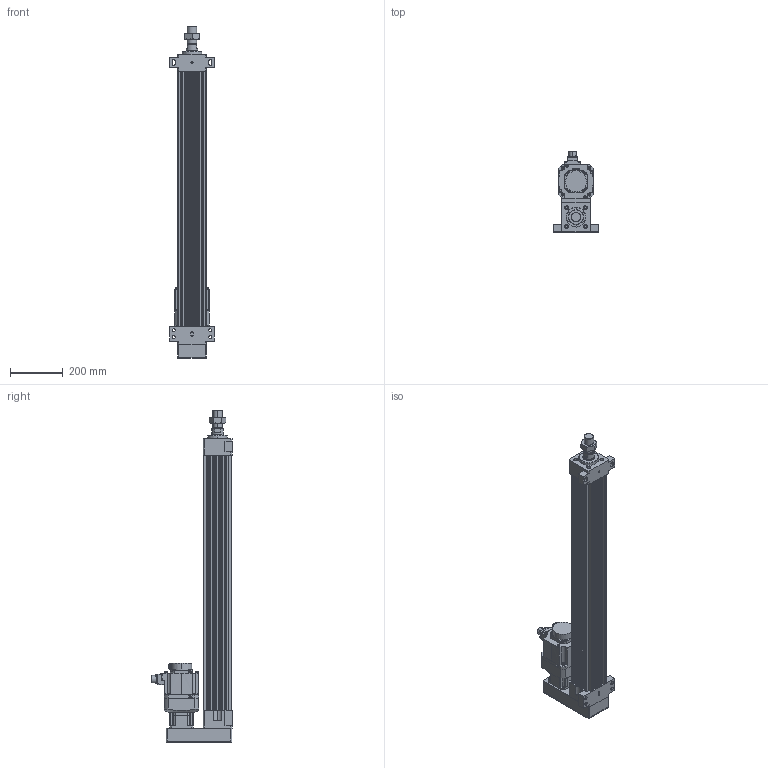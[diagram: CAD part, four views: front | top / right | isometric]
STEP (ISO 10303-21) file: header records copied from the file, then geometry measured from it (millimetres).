
FILE_DESCRIPTION (( 'STEP AP203' ), '1' );
FILE_NAME ('HES110NS(HS)-P800-W010G00-M-FFB.STEP', '2023-01-26T09:38:41', ( 'tms' ), ( '' ), 'SwSTEP 2.0', 'SolidWorks 2013', '' );
FILE_SCHEMA (( 'CONFIG_CONTROL_DESIGN' ));
Length unit declared in the file: millimetre
Products named in the file (8): M36X1.5P; AB090-003[HG-SR102B]; HES110-P800-G090-FFB; HES110NS(HS)-P800-W010G00-M-FFB; P0401301004; AB0901; HG-SR102; HES110 ROD M ST800
Assembly tree (7 placements, depth 3):
  HES110NS(HS)-P800-W010G00-M-FFB
    HES110-P800-G090-FFB
    HES110 ROD M ST800
    M36X1.5P
    AB090-003[HG-SR102B]
      AB0901
      P0401301004
    HG-SR102
Bounding box: 170 x 304.99 x 1263 mm (x, y, z)
Volume: 10568603.2 mm3; surface area: 1433961.5 mm2
Topology: 4 solids, 11 shells, 1083 faces, 2775 edges, 1806 vertices
Faces by surface type: cylinder 501, plane 500, cone 70, bspline 8, torus 4
Entity records: 34904 total; most frequent: CARTESIAN_POINT 6854, DIRECTION 5982, ORIENTED_EDGE 5502, EDGE_CURVE 2761, AXIS2_PLACEMENT_3D 2205, VERTEX_POINT 1806, LINE 1572, VECTOR 1572
